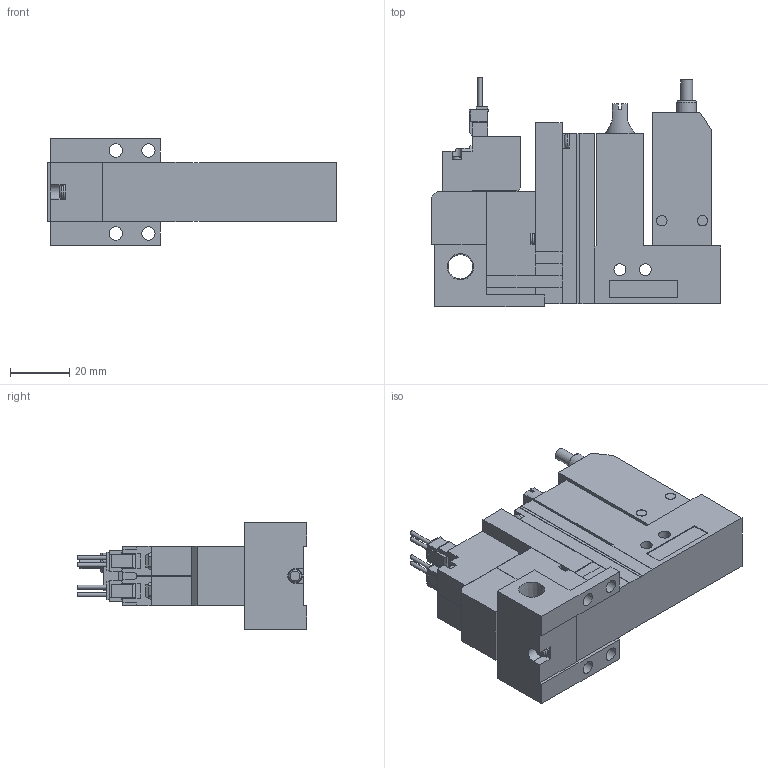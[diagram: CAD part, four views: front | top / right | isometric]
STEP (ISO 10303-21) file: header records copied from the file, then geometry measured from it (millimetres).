
FILE_DESCRIPTION(('STEP AP203'),'1');
FILE_NAME('ABS_ABPLC5BLR101.stp','2025-02-18T05:27:33',(' '),(' '),'Spatial InterOp 3D',' ',' ');
FILE_SCHEMA(('CONFIG_CONTROL_DESIGN'));
Length unit declared in the file: millimetre
Products named in the file (5): BMC22M※※※※ABS_ABPLC5BLR101; Solenoid valve B; Pressure sensor ABSLC; Unit LC; Base MR10R
Assembly tree (4 placements, depth 2):
  BMC22M※※※※ABS_ABPLC5BLR101
    Solenoid valve B
    Pressure sensor ABSLC
    Unit LC
    Base MR10R
Bounding box: 97.6 x 77.45 x 36 mm (x, y, z)
Volume: 106342.7 mm3; surface area: 29257.6 mm2
Topology: 4 solids, 4 shells, 408 faces, 1097 edges, 722 vertices
Faces by surface type: plane 344, cylinder 49, cone 9, torus 6
Full cylindrical faces by diameter (mm): 1.4 x4, 2.5 x1, 3 x4, 3.5 x6, 3.6 x1, 4 x3, 4.134 x1, 4.5 x4, 5.2 x1, 6 x1, 6.5 x1, 6.6 x1, 8.279 x1
Entity records: 12686 total; most frequent: CARTESIAN_POINT 2348, ORIENTED_EDGE 2068, DIRECTION 1995, EDGE_CURVE 1034, LINE 885, VECTOR 885, VERTEX_POINT 707, AXIS2_PLACEMENT_3D 555
